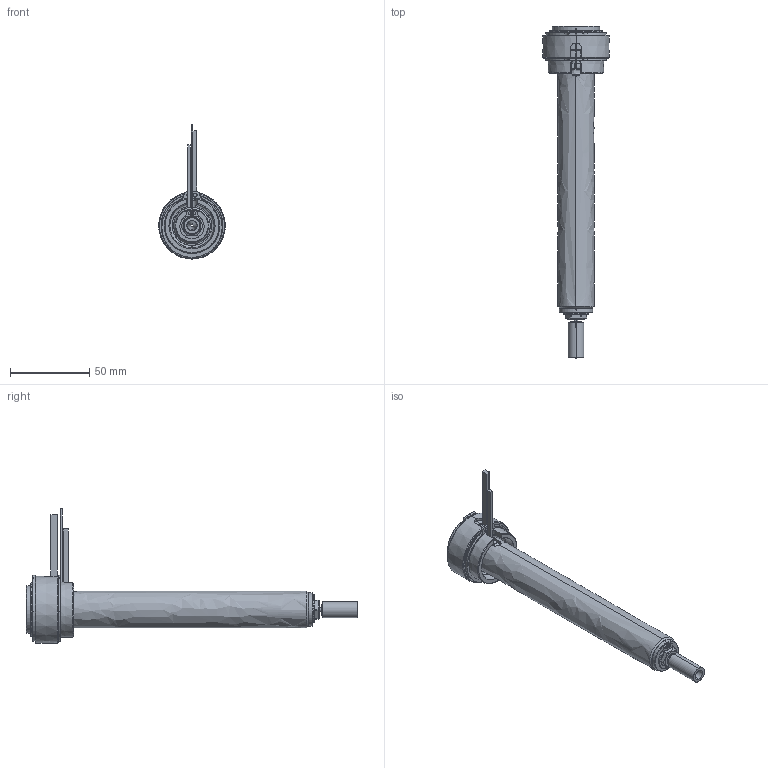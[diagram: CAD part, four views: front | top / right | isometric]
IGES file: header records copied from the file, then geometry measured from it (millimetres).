
Start section: SolidWorks IGES file using analytic representation for surfaces
Global section: file name: C:\Users\luca.EMPAD\Desktop\TEM\UGBE3504-M-A-P-5 [Ød-1.5 P-20 ØC-7.0].IGS; native system: SolidWorks 2012; preprocessor: SolidWorks 2012; author: luca; date: 120330.140609; units: millimetre
Bounding box: 42 x 209 x 84.4 mm (x, y, z)
Surface area: 35958.9 mm2 (no closed solid volume)
Topology: 0 solids, 0 shells, 178 faces, 3218 edges, 3218 vertices
Faces by surface type: revolution 112, bspline 66
